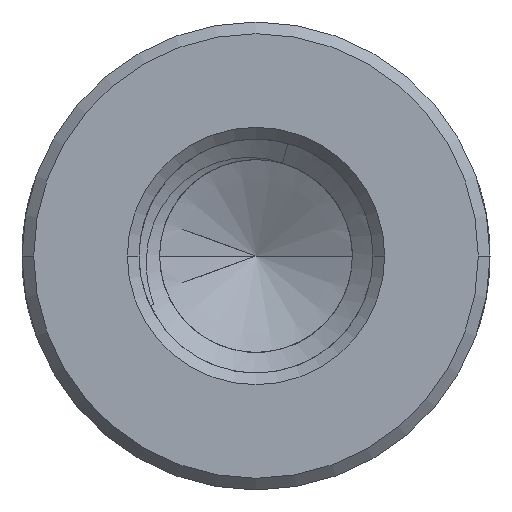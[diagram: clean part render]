
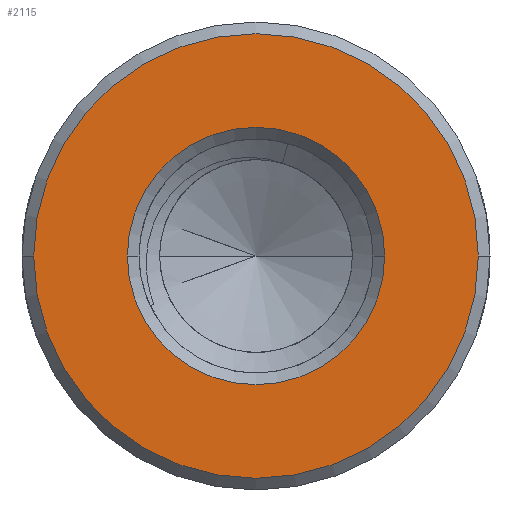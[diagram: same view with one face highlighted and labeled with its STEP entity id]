
A CAD part, front view. The second image highlights one B-rep face of the part: STEP entity #2115.
In plain terms, the highlighted planar face has unit normal (0, -1, 0).
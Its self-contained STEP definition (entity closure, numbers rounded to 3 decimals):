
#1=CARTESIAN_POINT('',(0.,-50.,0.));
#2=DIRECTION('',(0.,-1.,0.));
#3=DIRECTION('',(-1.,0.,0.));
#4=AXIS2_PLACEMENT_3D('',#1,#2,#3);
#6=CARTESIAN_POINT('',(0.,-50.,0.));
#7=DIRECTION('',(0.,-1.,0.));
#8=DIRECTION('',(1.,0.,0.));
#9=AXIS2_PLACEMENT_3D('',#6,#7,#8);
#11=CARTESIAN_POINT('',(0.,-50.,0.));
#12=DIRECTION('',(0.,1.,0.));
#13=DIRECTION('',(-1.,0.,0.));
#14=AXIS2_PLACEMENT_3D('',#11,#12,#13);
#16=CARTESIAN_POINT('',(0.,-50.,0.));
#17=DIRECTION('',(0.,1.,0.));
#18=DIRECTION('',(1.,0.,0.));
#19=AXIS2_PLACEMENT_3D('',#16,#17,#18);
#1957=CARTESIAN_POINT('',(-5.7,-50.,0.));
#1958=CARTESIAN_POINT('',(5.7,-50.,0.));
#1959=VERTEX_POINT('',#1957);
#1960=VERTEX_POINT('',#1958);
#2053=CARTESIAN_POINT('',(-3.3,-50.,0.));
#2054=CARTESIAN_POINT('',(3.3,-50.,0.));
#2055=VERTEX_POINT('',#2053);
#2056=VERTEX_POINT('',#2054);
#2098=CARTESIAN_POINT('',(0.,-50.,0.));
#2099=DIRECTION('',(0.,1.,0.));
#2100=DIRECTION('',(1.,0.,0.));
#2101=AXIS2_PLACEMENT_3D('',#2098,#2099,#2100);
#2102=PLANE('',#2101);
#2104=ORIENTED_EDGE('',*,*,#2103,.F.);
#2106=ORIENTED_EDGE('',*,*,#2105,.F.);
#2107=EDGE_LOOP('',(#2104,#2106));
#2108=FACE_OUTER_BOUND('',#2107,.F.);
#2110=ORIENTED_EDGE('',*,*,#2109,.F.);
#2112=ORIENTED_EDGE('',*,*,#2111,.F.);
#2113=EDGE_LOOP('',(#2110,#2112));
#2114=FACE_BOUND('',#2113,.F.);
#2115=ADVANCED_FACE('',(#2108,#2114),#2102,.F.);
#5=CIRCLE('',#4,5.7);
#10=CIRCLE('',#9,5.7);
#15=CIRCLE('',#14,3.3);
#20=CIRCLE('',#19,3.3);
#2103=EDGE_CURVE('',#1959,#1960,#5,.T.);
#2105=EDGE_CURVE('',#1960,#1959,#10,.T.);
#2109=EDGE_CURVE('',#2055,#2056,#15,.T.);
#2111=EDGE_CURVE('',#2056,#2055,#20,.T.);
